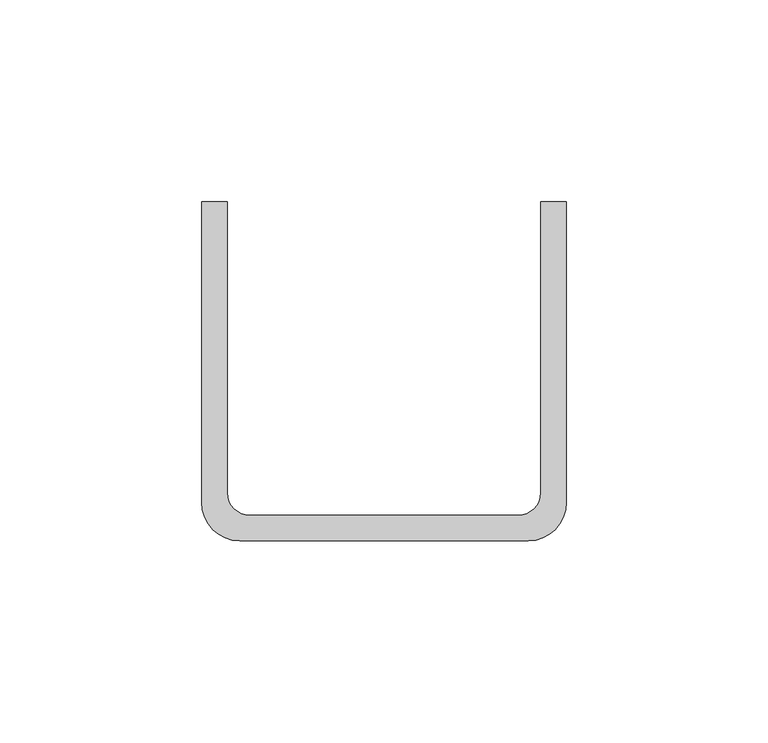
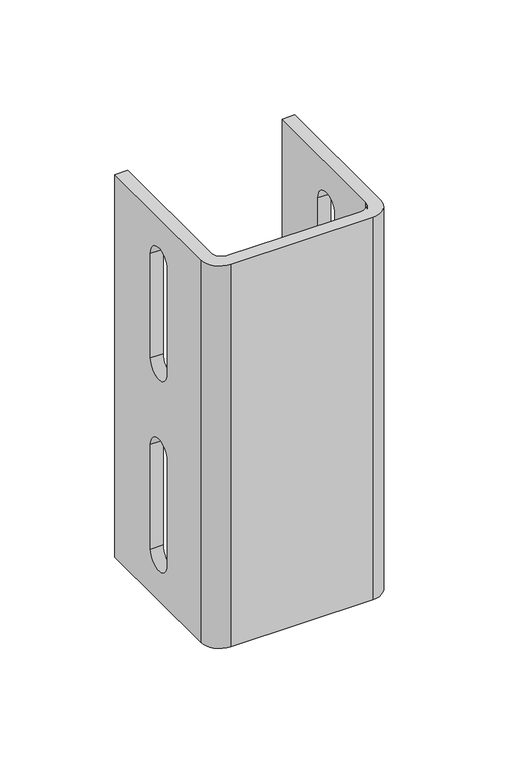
"""IFC4 building model written with IfcOpenShell, lengths in millimetres: proxy geometry, 14NSF-B13 : 14NSF-B13."""

from ifc_helpers import new_model, si_unit, frame, origin, place, context, project, spatial, polyline, circle_curve, source, transform, mapped, element, save
from ifc_brep_helpers import plane_surface, cylinder_surface, revolved_surface, advanced_brep


def generic_models_21444040(model_context):
    return source(origin(), model_context, "Body", "AdvancedBrep", [
        advanced_brep(
        [(-45.24375, 0.0, 203.2), (-45.24375, -74.6125, 203.2), (-35.71875, -84.1375, 203.2), (35.71875, -84.1375, 203.2), (45.24375, -74.6125, 203.2), (45.24375, 0.0, 203.2), (38.89375, 0.0, 203.2), (38.89375, -72.23125, 203.2), (33.3375, -77.7875, 203.2), (-33.3375, -77.7875, 203.2), (-38.89375, -72.23125, 203.2), (-38.89375, 0.0, 203.2), (-45.24375, -74.6125, 0.0), (-45.24375, 0.0, 0.0), (-38.89375, 0.0, 0.0), (-38.89375, -72.23125, 0.0), (-33.3375, -77.7875, 0.0), (33.3375, -77.7875, 0.0), (38.89375, -72.23125, 0.0), (38.89375, 0.0, 0.0), (45.24375, 0.0, 0.0), (45.24375, -74.6125, 0.0), (35.71875, -84.1375, 0.0), (-35.71875, -84.1375, 0.0), (-45.24375, -45.24375, 180.1874249), (-45.24375, -45.24375, 124.6125751), (-45.24375, -30.95625, 124.6125751), (-45.24375, -30.95625, 180.1874249), (-45.24375, -45.24375, 78.5874249), (-45.24375, -45.24375, 23.0125751), (-45.24375, -30.95625, 23.0125751), (-45.24375, -30.95625, 78.5874249), (45.24375, -45.24375, 124.6125751), (45.24375, -45.24375, 180.1874249), (45.24375, -30.95625, 180.1874249), (45.24375, -30.95625, 124.6125751), (45.24375, -45.24375, 23.0125751), (45.24375, -45.24375, 78.5874249), (45.24375, -30.95625, 78.5874249), (45.24375, -30.95625, 23.0125751), (38.89375, -45.24375, 180.1874249), (38.89375, -45.24375, 124.6125751), (38.89375, -30.95625, 124.6125751), (38.89375, -30.95625, 180.1874249), (38.89375, -45.24375, 78.5874249), (38.89375, -45.24375, 23.0125751), (38.89375, -30.95625, 23.0125751), (38.89375, -30.95625, 78.5874249), (-38.89375, -45.24375, 124.6125751), (-38.89375, -45.24375, 180.1874249), (-38.89375, -30.95625, 180.1874249), (-38.89375, -30.95625, 124.6125751), (-38.89375, -45.24375, 23.0125751), (-38.89375, -45.24375, 78.5874249), (-38.89375, -30.95625, 78.5874249), (-38.89375, -30.95625, 23.0125751)],
        [
            (0, 1),
            (1, 2, circle_curve(frame((-35.71875, -74.6125, 203.2), z_axis=(0.0, 0.0, 1.0), x_axis=(1.0, 0.0, 0.0)), 9.525)),
            (2, 3),
            (3, 4, circle_curve(frame((35.71875, -74.6125, 203.2), z_axis=(0.0, 0.0, 1.0), x_axis=(1.0, 0.0, 0.0)), 9.525)),
            (4, 5),
            (5, 6),
            (6, 7),
            (7, 8, circle_curve(frame((33.3375, -72.23125, 203.2), z_axis=(0.0, 0.0, -1.0), x_axis=(1.0, 0.0, 0.0)), 5.55625)),
            (8, 9),
            (9, 10, circle_curve(frame((-33.3375, -72.23125, 203.2), z_axis=(0.0, 0.0, -1.0), x_axis=(1.0, 0.0, 0.0)), 5.55625)),
            (10, 11),
            (11, 0),
            (12, 13),
            (13, 14),
            (14, 15),
            (15, 16, circle_curve(frame((-33.3375, -72.23125, 0.0), z_axis=(0.0, 0.0, 1.0), x_axis=(1.0, 0.0, 0.0)), 5.55625)),
            (16, 17),
            (17, 18, circle_curve(frame((33.3375, -72.23125, 0.0), z_axis=(0.0, 0.0, 1.0), x_axis=(1.0, 0.0, 0.0)), 5.55625)),
            (18, 19),
            (19, 20),
            (20, 21),
            (21, 22, circle_curve(frame((35.71875, -74.6125, 0.0), z_axis=(0.0, 0.0, -1.0), x_axis=(1.0, 0.0, 0.0)), 9.525)),
            (22, 23),
            (23, 12, circle_curve(frame((-35.71875, -74.6125, 0.0), z_axis=(0.0, 0.0, -1.0), x_axis=(1.0, 0.0, 0.0)), 9.525)),
            (0, 13),
            (12, 1),
            (24, 25),
            (25, 26, circle_curve(frame((-45.24375, -38.1, 124.6125751), z_axis=(1.0, 0.0, 0.0), x_axis=(0.0, -1.0, 0.0)), 7.14375)),
            (26, 27),
            (27, 24, circle_curve(frame((-45.24375, -38.1, 180.1874249), z_axis=(1.0, 0.0, 0.0), x_axis=(0.0, -1.0, 0.0)), 7.14375)),
            (28, 29),
            (29, 30, circle_curve(frame((-45.24375, -38.1, 23.0125751), z_axis=(1.0, 0.0, 0.0), x_axis=(0.0, -1.0, 0.0)), 7.14375)),
            (30, 31),
            (31, 28, circle_curve(frame((-45.24375, -38.1, 78.5874249), z_axis=(1.0, 0.0, 0.0), x_axis=(0.0, -1.0, 0.0)), 7.14375)),
            (23, 2),
            (22, 3),
            (21, 4),
            (20, 5),
            (32, 33),
            (33, 34, circle_curve(frame((45.24375, -38.1, 180.1874249), z_axis=(-1.0, 0.0, 0.0), x_axis=(0.0, -1.0, 0.0)), 7.14375)),
            (34, 35),
            (35, 32, circle_curve(frame((45.24375, -38.1, 124.6125751), z_axis=(-1.0, 0.0, 0.0), x_axis=(0.0, -1.0, 0.0)), 7.14375)),
            (36, 37),
            (37, 38, circle_curve(frame((45.24375, -38.1, 78.5874249), z_axis=(-1.0, 0.0, 0.0), x_axis=(0.0, -1.0, 0.0)), 7.14375)),
            (38, 39),
            (39, 36, circle_curve(frame((45.24375, -38.1, 23.0125751), z_axis=(-1.0, 0.0, 0.0), x_axis=(0.0, -1.0, 0.0)), 7.14375)),
            (6, 19),
            (18, 7),
            (40, 41),
            (41, 42, circle_curve(frame((38.89375, -38.1, 124.6125751), z_axis=(1.0, 0.0, 0.0), x_axis=(0.0, -1.0, 0.0)), 7.14375)),
            (42, 43),
            (43, 40, circle_curve(frame((38.89375, -38.1, 180.1874249), z_axis=(1.0, 0.0, 0.0), x_axis=(0.0, -1.0, 0.0)), 7.14375)),
            (44, 45),
            (45, 46, circle_curve(frame((38.89375, -38.1, 23.0125751), z_axis=(1.0, 0.0, 0.0), x_axis=(0.0, -1.0, 0.0)), 7.14375)),
            (46, 47),
            (47, 44, circle_curve(frame((38.89375, -38.1, 78.5874249), z_axis=(1.0, 0.0, 0.0), x_axis=(0.0, -1.0, 0.0)), 7.14375)),
            (17, 8),
            (16, 9),
            (15, 10),
            (14, 11),
            (48, 49),
            (49, 50, circle_curve(frame((-38.89375, -38.1, 180.1874249), z_axis=(-1.0, 0.0, 0.0), x_axis=(0.0, -1.0, 0.0)), 7.14375)),
            (50, 51),
            (51, 48, circle_curve(frame((-38.89375, -38.1, 124.6125751), z_axis=(-1.0, 0.0, 0.0), x_axis=(0.0, -1.0, 0.0)), 7.14375)),
            (52, 53),
            (53, 54, circle_curve(frame((-38.89375, -38.1, 78.5874249), z_axis=(-1.0, 0.0, 0.0), x_axis=(0.0, -1.0, 0.0)), 7.14375)),
            (54, 55),
            (55, 52, circle_curve(frame((-38.89375, -38.1, 23.0125751), z_axis=(-1.0, 0.0, 0.0), x_axis=(0.0, -1.0, 0.0)), 7.14375)),
            (24, 49),
            (48, 25),
            (27, 50),
            (26, 51),
            (32, 41),
            (40, 33),
            (35, 42),
            (34, 43),
            (44, 37),
            (36, 45),
            (39, 46),
            (38, 47),
            (52, 29),
            (28, 53),
            (31, 54),
            (30, 55),
        ],
        [
            plane_surface(frame((-26.19375, -74.6125, 203.2), z_axis=(0.0, 0.0, 1.0), x_axis=(0.0, 1.0, 0.0))),
            plane_surface(frame((-26.19375, -74.6125, 0.0), z_axis=(0.0, 0.0, -1.0), x_axis=(0.0, -1.0, 0.0))),
            plane_surface(frame((-45.24375, 0.0, 203.2), z_axis=(-1.0, 0.0, 0.0), x_axis=(0.0, 0.0, -1.0))),
            cylinder_surface(frame((-35.71875, -74.6125, 0.0), z_axis=(0.0, 0.0, 1.0), x_axis=(1.0, 0.0, 0.0)), 9.525),
            plane_surface(frame((-35.71875, -84.1375, 203.2), z_axis=(0.0, -1.0, 0.0), x_axis=(0.0, 0.0, -1.0))),
            cylinder_surface(frame((35.71875, -74.6125, 0.0), z_axis=(0.0, 0.0, 1.0), x_axis=(1.0, 0.0, 0.0)), 9.525),
            plane_surface(frame((45.24375, -74.6125, 203.2), z_axis=(1.0, 0.0, 0.0), x_axis=(0.0, 0.0, -1.0))),
            plane_surface(frame((38.89375, 0.0, 203.2), z_axis=(-1.0, 0.0, 0.0), x_axis=(0.0, 0.0, -1.0))),
            revolved_surface(polyline([(38.89375, -72.23125, 0.0), (38.89375, -72.23125, 203.2)]), (33.3375, -72.23125, 0.0), (0.0, 0.0, -1.0)),
            plane_surface(frame((33.3375, -77.7875, 203.2), z_axis=(0.0, 1.0, 0.0), x_axis=(0.0, 0.0, -1.0))),
            revolved_surface(polyline([(-27.78125, -72.23125, 0.0), (-27.78125, -72.23125, 203.2)]), (-33.3375, -72.23125, 0.0), (0.0, 0.0, -1.0)),
            plane_surface(frame((-38.89375, -72.23125, 203.2), z_axis=(1.0, 0.0, 0.0), x_axis=(0.0, 0.0, -1.0))),
            plane_surface(frame((45.24375, 0.0, 203.2), z_axis=(0.0, 1.0, 0.0), x_axis=(0.0, 0.0, -1.0))),
            plane_surface(frame((-38.89375, 0.0, 203.2), z_axis=(0.0, 1.0, 0.0), x_axis=(0.0, 0.0, -1.0))),
            plane_surface(frame((-48.41875, -45.24375, 124.6125751), z_axis=(0.0, 1.0, 0.0), x_axis=(1.0, 0.0, 0.0))),
            revolved_surface(polyline([(-45.24375, -45.24375, 180.1874249), (-38.89375, -45.24375, 180.1874249)]), (-38.89375, -38.1, 180.1874249), (-1.0, 0.0, 0.0)),
            plane_surface(frame((-48.41875, -30.95625, 180.1874249), z_axis=(0.0, -1.0, 0.0), x_axis=(1.0, 0.0, 0.0))),
            revolved_surface(polyline([(-45.24375, -45.24375, 124.6125751), (-38.89375, -45.24375, 124.6125751)]), (-38.89375, -38.1, 124.6125751), (-1.0, 0.0, 0.0)),
            plane_surface(frame((48.41875, -45.24375, 180.1874249), z_axis=(0.0, 1.0, 0.0), x_axis=(-1.0, 0.0, 0.0))),
            revolved_surface(polyline([(45.24375, -45.24375, 124.6125751), (38.89375, -45.24375, 124.6125751)]), (38.89375, -38.1, 124.6125751), (1.0, 0.0, 0.0)),
            plane_surface(frame((48.41875, -30.95625, 124.6125751), z_axis=(0.0, -1.0, 0.0), x_axis=(-1.0, 0.0, 0.0))),
            revolved_surface(polyline([(45.24375, -45.24375, 180.1874249), (38.89375, -45.24375, 180.1874249)]), (38.89375, -38.1, 180.1874249), (1.0, 0.0, 0.0)),
            plane_surface(frame((48.41875, -45.24375, 78.5874249), z_axis=(0.0, 1.0, 0.0), x_axis=(-1.0, 0.0, 0.0))),
            revolved_surface(polyline([(45.24375, -45.24375, 23.0125751), (38.89375, -45.24375, 23.0125751)]), (38.89375, -38.1, 23.0125751), (1.0, 0.0, 0.0)),
            plane_surface(frame((48.41875, -30.95625, 23.0125751), z_axis=(0.0, -1.0, 0.0), x_axis=(-1.0, 0.0, 0.0))),
            revolved_surface(polyline([(45.24375, -45.24375, 78.5874249), (38.89375, -45.24375, 78.5874249)]), (38.89375, -38.1, 78.5874249), (1.0, 0.0, 0.0)),
            plane_surface(frame((-48.41875, -45.24375, 23.0125751), z_axis=(0.0, 1.0, 0.0), x_axis=(1.0, 0.0, 0.0))),
            revolved_surface(polyline([(-45.24375, -45.24375, 78.5874249), (-38.89375, -45.24375, 78.5874249)]), (-38.89375, -38.1, 78.5874249), (-1.0, 0.0, 0.0)),
            plane_surface(frame((-48.41875, -30.95625, 78.5874249), z_axis=(0.0, -1.0, 0.0), x_axis=(1.0, 0.0, 0.0))),
            revolved_surface(polyline([(-45.24375, -45.24375, 23.0125751), (-38.89375, -45.24375, 23.0125751)]), (-38.89375, -38.1, 23.0125751), (-1.0, 0.0, 0.0)),
        ],
        [
            (0, [[1, 2, 3, 4, 5, 6, 7, 8, 9, 10, 11, 12]]),
            (1, [[13, 14, 15, 16, 17, 18, 19, 20, 21, 22, 23, 24]]),
            (2, [[-1, 25, -13, 26], [27, 28, 29, 30], [31, 32, 33, 34]]),
            (3, [[-2, -26, -24, 35]]),
            (4, [[-3, -35, -23, 36]]),
            (5, [[-4, -36, -22, 37]]),
            (6, [[-5, -37, -21, 38], [39, 40, 41, 42], [43, 44, 45, 46]]),
            (7, [[-7, 47, -19, 48], [49, 50, 51, 52], [53, 54, 55, 56]]),
            (8, [[-8, -48, -18, 57]]),
            (9, [[-9, -57, -17, 58]]),
            (10, [[-10, -58, -16, 59]]),
            (11, [[-11, -59, -15, 60], [61, 62, 63, 64], [65, 66, 67, 68]]),
            (12, [[-6, -38, -20, -47]]),
            (13, [[-12, -60, -14, -25]]),
            (14, [[69, -61, 70, -27]]),
            (15, [[-69, -30, 71, -62]]),
            (16, [[72, -63, -71, -29]]),
            (17, [[-70, -64, -72, -28]]),
            (18, [[73, -49, 74, -39]]),
            (19, [[-73, -42, 75, -50]]),
            (20, [[76, -51, -75, -41]]),
            (21, [[-74, -52, -76, -40]]),
            (22, [[77, -43, 78, -53]]),
            (23, [[-78, -46, 79, -54]]),
            (24, [[-79, -45, 80, -55]]),
            (25, [[-77, -56, -80, -44]]),
            (26, [[81, -31, 82, -65]]),
            (27, [[-82, -34, 83, -66]]),
            (28, [[-83, -33, 84, -67]]),
            (29, [[-81, -68, -84, -32]]),
        ],
    ),
    ])


if __name__ == "__main__":
    model = new_model("IFC4")
    model_context = context("Model", 3, world=origin())
    ifc_project = project(units=[si_unit("LENGTHUNIT", "METRE", prefix="MILLI")], contexts=[model_context])
    site = spatial("IfcSite", under=ifc_project)
    building = spatial("IfcBuilding", under=site)
    placement = place(None, origin())
    generic_models_shape = generic_models_21444040(model_context)
    element("IfcBuildingElementProxy", 1, Name="14NSF-B13 : 14NSF-B13", ObjectType="14NSF-B13 : 14NSF-B13", at=placement, inside=building, context=model_context, shape_type="MappedRepresentation", body=[
        mapped(generic_models_shape, transform((0.0, 0.0, 0.0), x_axis=(1.0, 0.0, 0.0), y_axis=(0.0, 1.0, 0.0), z_axis=(0.0, 0.0, 1.0))),
    ])
    save(model, "model.ifc")
